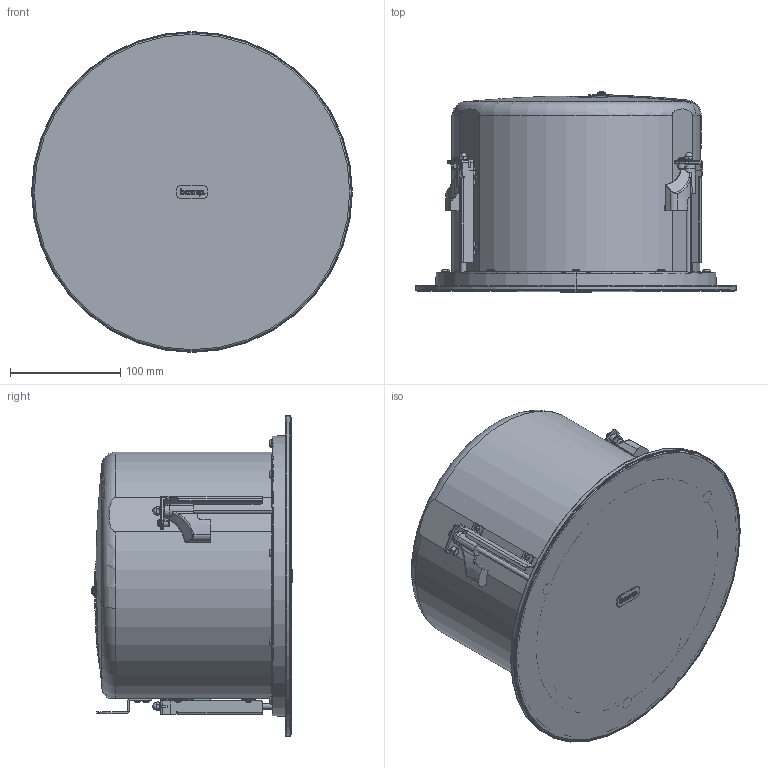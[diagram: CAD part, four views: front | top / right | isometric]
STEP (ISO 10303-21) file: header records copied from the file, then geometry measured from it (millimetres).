
FILE_DESCRIPTION (( 'STEP AP203' ), '1' );
FILE_NAME ('851.0556_defeatured_WEB.900.step', '2022-04-01T14:14:33', ( '' ), ( '' ), 'SwSTEP 2.0', 'SolidWorks 2021', '' );
FILE_SCHEMA (( 'CONFIG_CONTROL_DESIGN' ));
Products named in the file (1): 851.0556_defeatured_WEB.900
Bounding box: 290.53 x 182.38 x 290.53 mm (x, y, z)
Volume: 6717576.3 mm3; surface area: 459386.1 mm2
Topology: 9 solids, 24 shells, 2847 faces, 7111 edges, 4458 vertices
Faces by surface type: plane 1060, cylinder 783, cone 445, bspline 394, torus 115, sphere 50
Entity records: 127214 total; most frequent: CARTESIAN_POINT 62920, ORIENTED_EDGE 14146, DIRECTION 12573, EDGE_CURVE 7073, AXIS2_PLACEMENT_3D 4813, VERTEX_POINT 4437, EDGE_LOOP 3044, LINE 2947
